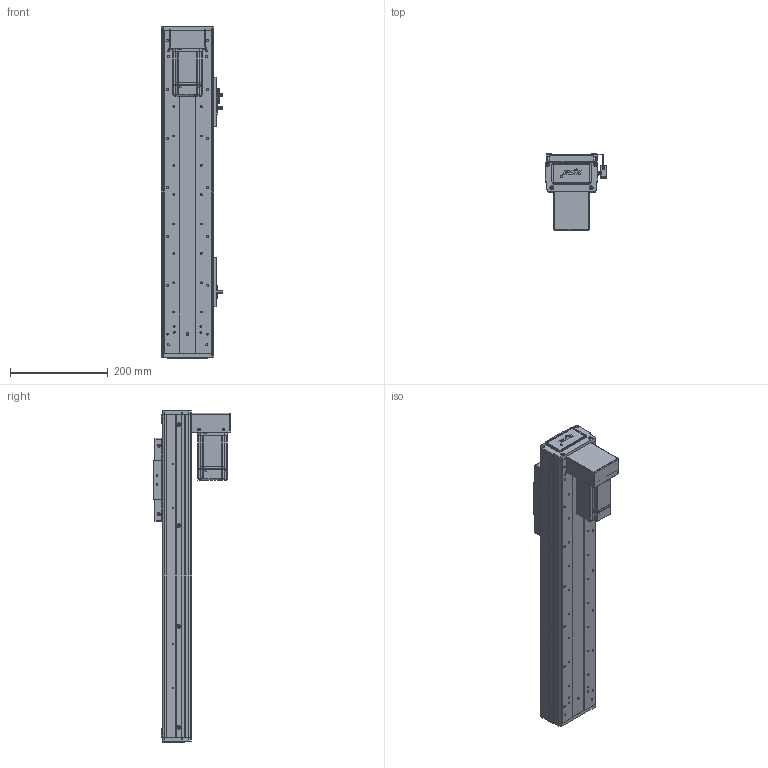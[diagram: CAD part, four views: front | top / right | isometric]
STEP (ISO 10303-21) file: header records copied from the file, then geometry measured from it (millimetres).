
FILE_DESCRIPTION (( 'STEP AP203' ), '1' );
FILE_NAME ('RY100FS-L1620-300-BK(15双轨).SLDASM_400.step', '2021-03-02T07:33:33', ( '盈信电脑' ), ( '东莞市道滘镇水果街19号' ), 'SwSTEP 2.0', 'SolidWorks 2012', '' );
FILE_SCHEMA (( 'CONFIG_CONTROL_DESIGN' ));
Length unit declared in the file: millimetre
Products named in the file (21): 1; RY100FS-L1620-300-BK(15邧寢).SLDASM_400; 蚥薯蝶紫輸; RY100FS-15双轨下折钢带安装板; RY100FS-15邧寢狟殏萇儂欶; 滅袉蝶18-15; RY100F-詩湍揤踡輸; RY100FS-双轨螺母座(16丝杆）; RY100FS-15邧寢狟殏萇儂啣; 覜茼ん672; RY80俋离覜茼え; RY100F-詩湍揤踡謫; 672嫖萇羲壽假蚾釱; RY100F-綴裔啣; RY100F-滅鳥裔啣; 棠沺沭; RY100F-詩湍幗謫粣; RY100FS-300-BK15絳寢倰第奻裔啣_400; RY100FS-300-BK15邧寢祥凄詩湍_400; RY100FS-双轨铝滑块(上板）; RY100FS-300-BK15絳寢倰第菁釱_400
Assembly tree (30 placements, depth 2):
  RY100FS-L1620-300-BK(15邧寢).SLDASM_400
    RY100FS-300-BK15絳寢倰第菁釱_400
    RY100FS-300-BK15絳寢倰第奻裔啣_400  x2
    RY100FS-300-BK15邧寢祥凄詩湍_400
    RY100FS-双轨铝滑块(上板）
    RY100F-滅鳥裔啣
    棠沺沭  x2
    RY100F-詩湍幗謫粣
    RY100F-詩湍揤踡謫  x2
    RY100F-綴裔啣  x2
    672嫖萇羲壽假蚾釱  x2
    RY80俋离覜茼え  x2
    覜茼ん672  x3
    RY100F-詩湍揤踡輸  x2
    RY100FS-双轨螺母座(16丝杆）
    RY100FS-15邧寢狟殏萇儂啣
    RY100FS-15邧寢狟殏萇儂欶
    蚥薯蝶紫輸
    RY100FS-15双轨下折钢带安装板
    滅袉蝶18-15  x2
    1
Bounding box: 126.2 x 158.5 x 679 mm (x, y, z)
Volume: 1911727.2 mm3; surface area: 776006.6 mm2
Topology: 30 solids, 30 shells, 2219 faces, 6030 edges, 3922 vertices
Faces by surface type: plane 1089, cylinder 962, cone 132, bspline 36
Entity records: 59636 total; most frequent: CARTESIAN_POINT 12336, DIRECTION 9377, ORIENTED_EDGE 9300, EDGE_CURVE 4650, AXIS2_PLACEMENT_3D 3283, VERTEX_POINT 3060, VECTOR 2811, LINE 2811
